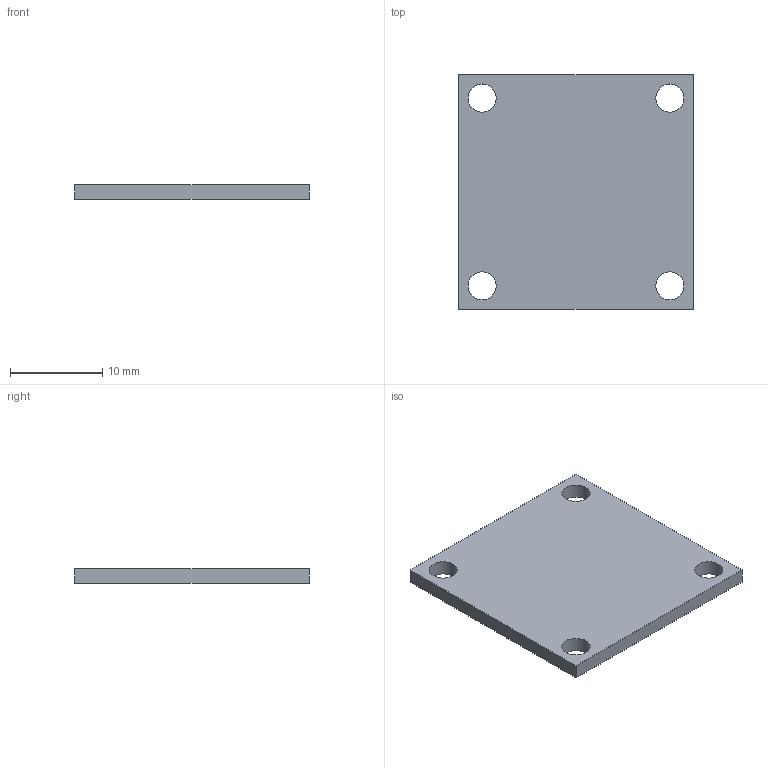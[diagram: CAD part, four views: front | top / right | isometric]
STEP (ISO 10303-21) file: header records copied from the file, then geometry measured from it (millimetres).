
FILE_DESCRIPTION(('Open CASCADE Model'),'2;1');
FILE_NAME('Open CASCADE Shape Model','2026-10-13T11:47:37',('Author'),( 'Open CASCADE'),'Open CASCADE STEP processor 7.8','Open CASCADE 7.8' ,'Unknown');
FILE_SCHEMA(('AUTOMOTIVE_DESIGN { 1 0 10303 214 1 1 1 1 }'));
Length unit declared in the file: millimetre
Products named in the file (1): Open CASCADE STEP translator 7.8 79
Bounding box: 25.4 x 25.4 x 1.6 mm (x, y, z)
Volume: 985.6 mm3; surface area: 1455.8 mm2
Topology: 1 solids, 1 shells, 10 faces, 24 edges, 16 vertices
Faces by surface type: plane 6, cylinder 4
Full cylindrical faces by diameter (mm): 3.048 x4
Entity records: 658 total; most frequent: CARTESIAN_POINT 147, DIRECTION 94, LINE 56, VECTOR 56, ORIENTED_EDGE 48, PCURVE 48, DEFINITIONAL_REPRESENTATION 48, EDGE_CURVE 24
